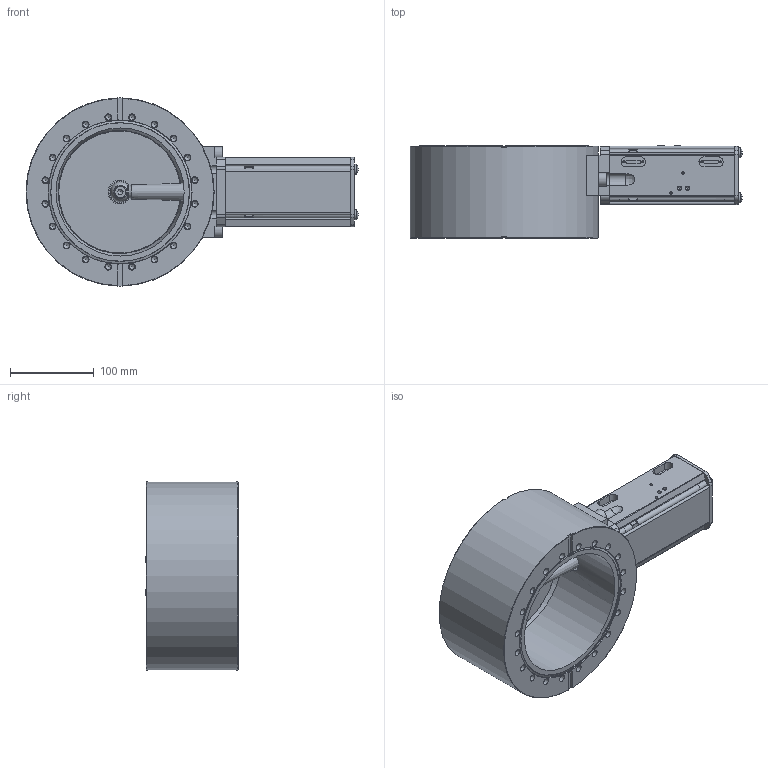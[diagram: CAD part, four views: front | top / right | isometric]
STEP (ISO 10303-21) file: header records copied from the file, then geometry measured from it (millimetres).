
FILE_DESCRIPTION(/* description */ (''),/* implementation_level */ '2;1');
FILE_NAME(/* name */ '1121768653_203.stp',/* time_stamp */ '2010-12-03T06:57:04+01:00',/* author */ (''),/* organization */ (''),/* preprocessor_version */ 'ST-DEVELOPER v11',/* originating_system */ 'SIEMENS UGS NX 6.0',/* authorisation */ '');
FILE_SCHEMA (('CONFIG_CONTROL_DESIGN'));
Length unit declared in the file: millimetre
Products named in the file (19): N-6089-310.1; 366254; N-5100-253_2.1; 233395.2; 229427.2; 217806.3; 223811.6; 244917.1; N-6013-443.2; N-6005-499.3; N-6024-571.1; N-6073-406.1; 218204.1; 223509.4; 223513.3; 85948-01.1; 366255; 243956.1_NX-ARRAGMNTZUSAMMENST1; 244955.2
Assembly tree (29 placements, depth 4):
  244955.2
    85948-01.1
    223513.3
    223509.4
    218204.1  x2
    N-6073-406.1  x2
    N-6024-571.1  x4
    N-6005-499.3
    N-6013-443.2  x4
    244917.1
    243956.1_NX-ARRAGMNTZUSAMMENST1
      233395.2
      N-5100-253_2.1
      366255
        366254
        N-6089-310.1
    223811.6
    217806.3  x4
    229427.2
Bounding box: 397 x 110.3 x 224.99 mm (x, y, z)
Volume: 2977679.3 mm3; surface area: 430799.4 mm2
Topology: 35 solids, 35 shells, 966 faces, 2255 edges, 1463 vertices
Faces by surface type: plane 510, cylinder 300, cone 126, torus 18, sphere 6, bspline 6
Full cylindrical faces by diameter (mm): 1.2 x2, 2 x1, 2.2 x4, 2.5 x6, 2.7 x2, 3 x3, 3.3 x2, 3.5 x6, 4 x13, 4.16 x2, 4.2 x4, 4.4 x4, 5 x14, 6 x12, 6.5 x4, 6.6 x4, 6.66 x1, 6.7 x1, 6.8 x40, 7.008 x1, 7.5 x4, 7.9 x2, 8 x51, 8.36 x2, 8.4 x3, 8.5 x1, 9.62 x2, 10 x6, 10.008 x1, 10.2 x2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
Entity records: 22973 total; most frequent: CARTESIAN_POINT 4319, DIRECTION 3513, ORIENTED_EDGE 2730, AXIS2_PLACEMENT_3D 1438, EDGE_CURVE 1365, EDGE_LOOP 1222, VERTEX_POINT 1112, FACE_BOUND 968
